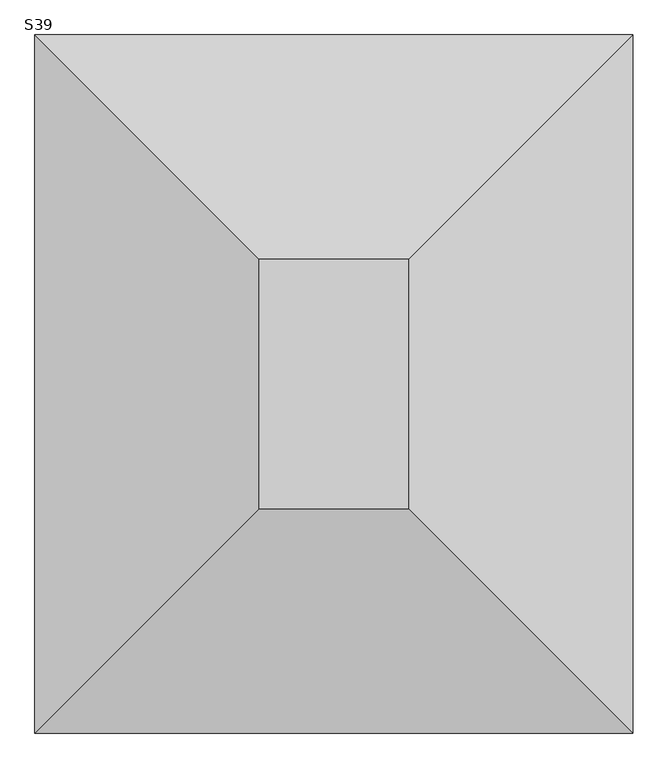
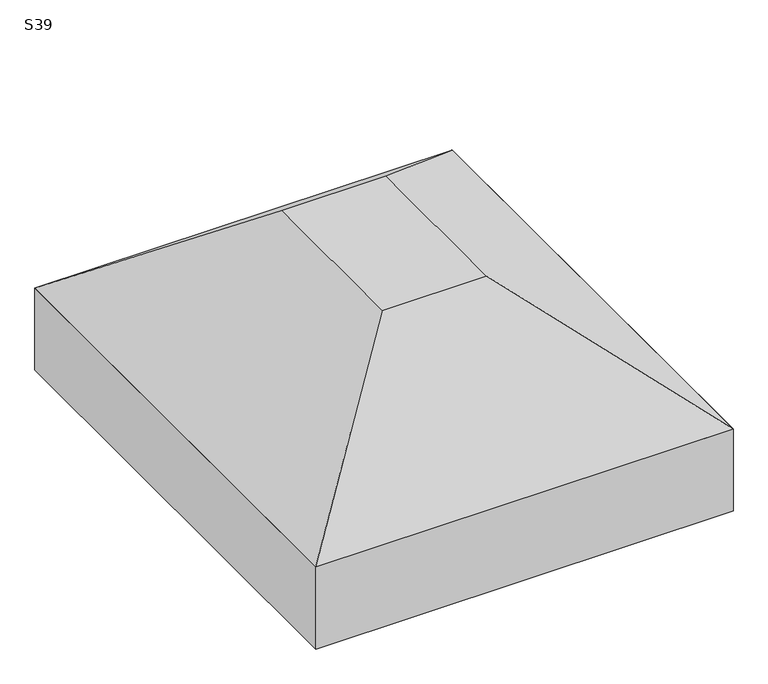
"""IFC4 building model written with IfcOpenShell, lengths in millimetres: fastener geometry, TQS - Sapata : S39."""

from ifc_helpers import new_model, si_unit, frame, origin, place, context, project, spatial, polyline, outline, extrude, faceted_brep, source, transform, mapped, element, save


def s39_0cca4455(model_context):
    return source(origin(), model_context, "Body", "SolidModel", [
        faceted_brep([(-50.0, 50.0, 0.0), (-350.0, 50.0, 0.0), (-350.0, -450.0, 0.0), (-50.0, -450.0, 0.0), (400.0, 500.0, -350.0), (400.0, -900.0, -350.0), (-800.0, -900.0, -350.0), (-800.0, 500.0, -350.0)], [[[0, 1, 2, 3]], [[4, 5, 6, 7]], [[4, 7, 1, 0]], [[7, 6, 2, 1]], [[6, 5, 3, 2]], [[5, 4, 0, 3]]]),
        extrude(outline(polyline([(400.0, 500.0), (400.0, -900.0), (-800.0, -900.0), (-800.0, 500.0), (400.0, 500.0)])), frame((0.0, 0.0, -600.0), z_axis=(0.0, 0.0, 1.0), x_axis=(1.0, 0.0, 0.0)), (0.0, 0.0, 1.0), 250.0),
    ])


if __name__ == "__main__":
    model = new_model("IFC4")
    model_context = context("Model", 3, world=origin())
    ifc_project = project(units=[si_unit("LENGTHUNIT", "METRE", prefix="MILLI")], contexts=[model_context])
    site = spatial("IfcSite", under=ifc_project)
    building = spatial("IfcBuilding", under=site)
    placement = place(None, origin())
    s39_shape = s39_0cca4455(model_context)
    element("IfcFastener", 1, ObjectType="TQS - Sapata : S39", at=placement, inside=building, context=model_context, shape_type="MappedRepresentation", body=[
        mapped(s39_shape, transform((0.0, 0.0, 0.0), x_axis=(1.0, 0.0, 0.0), y_axis=(0.0, 1.0, 0.0), z_axis=(0.0, 0.0, 1.0))),
    ])
    save(model, "model.ifc")
